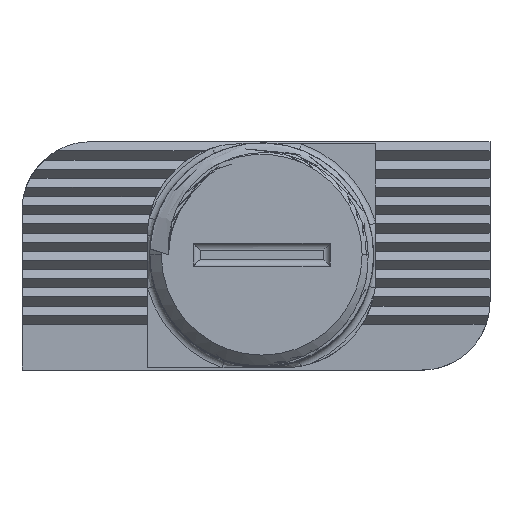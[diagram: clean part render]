
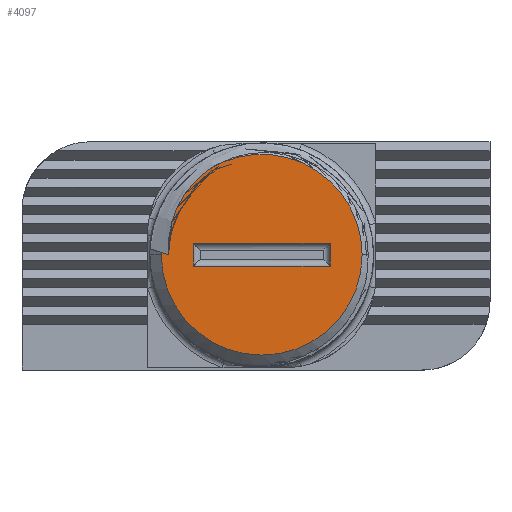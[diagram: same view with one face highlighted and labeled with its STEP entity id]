
A CAD part, top view. The second image highlights one B-rep face of the part: STEP entity #4097.
In plain terms, the highlighted planar face has unit normal (0, 0, 1).
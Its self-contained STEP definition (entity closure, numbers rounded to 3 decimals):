
#81 = CARTESIAN_POINT ( 'NONE',  ( -3.388, 3.343, 34.5 ) ) ;
#92 = CARTESIAN_POINT ( 'NONE',  ( -4., -0.853, 34.5 ) ) ;
#400 = VERTEX_POINT ( 'NONE', #3483 ) ;
#428 = DIRECTION ( 'NONE',  ( 0., 0., 1. ) ) ;
#483 = DIRECTION ( 'NONE',  ( -0.953, 0.301, 0. ) ) ;
#503 = VERTEX_POINT ( 'NONE', #2498 ) ;
#549 = VERTEX_POINT ( 'NONE', #1056 ) ;
#557 = CARTESIAN_POINT ( 'NONE',  ( -4., -0.853, 34.5 ) ) ;
#592 = CARTESIAN_POINT ( 'NONE',  ( -5.088, 0.355, 34.5 ) ) ;
#624 = AXIS2_PLACEMENT_3D ( 'NONE', #6035, #2811, #6567 ) ;
#806 = ORIENTED_EDGE ( 'NONE', *, *, #2337, .T. ) ;
#1009 = EDGE_CURVE ( 'NONE', #1193, #3682, #3129, .T. ) ;
#1056 = CARTESIAN_POINT ( 'NONE',  ( 2., -0.853, 34.5 ) ) ;
#1097 = CARTESIAN_POINT ( 'NONE',  ( -5.106, 0.003, 34.5 ) ) ;
#1119 = CARTESIAN_POINT ( 'NONE',  ( -4.951, 1.052, 34.5 ) ) ;
#1186 = VECTOR ( 'NONE', #6939, 1000. ) ;
#1193 = VERTEX_POINT ( 'NONE', #1791 ) ;
#1315 = EDGE_LOOP ( 'NONE', ( #806, #4676, #5809, #3533, #4298 ) ) ;
#1443 = CARTESIAN_POINT ( 'NONE',  ( 2., 0.147, 34.5 ) ) ;
#1616 = VECTOR ( 'NONE', #483, 1000. ) ;
#1627 = B_SPLINE_CURVE_WITH_KNOTS ( 'NONE', 3,
 ( #4900, #1097, #592, #4372, #1119, #4920, #1678, #5454, #2223, #5997, #2772, #6531, #3321, #81 ),
 .UNSPECIFIED., .F., .F.,
 ( 4, 2, 2, 2, 2, 2, 4 ),
 ( 0., 0.001, 0.002, 0.002, 0.003, 0.004, 0.004 ),
 .UNSPECIFIED. ) ;
#1639 = DIRECTION ( 'NONE',  ( 1., 0., 0. ) ) ;
#1655 = ORIENTED_EDGE ( 'NONE', *, *, #2837, .F. ) ;
#1678 = CARTESIAN_POINT ( 'NONE',  ( -4.781, 1.552, 34.5 ) ) ;
#1704 = LINE ( 'NONE', #2459, #5844 ) ;
#1729 = DIRECTION ( 'NONE',  ( 0., 0., 1. ) ) ;
#1791 = CARTESIAN_POINT ( 'NONE',  ( 3.4, -0.353, 34.5 ) ) ;
#1795 = FACE_BOUND ( 'NONE', #3082, .T. ) ;
#2213 = DIRECTION ( 'NONE',  ( 0., 0., 1. ) ) ;
#2223 = CARTESIAN_POINT ( 'NONE',  ( -4.371, 2.337, 34.5 ) ) ;
#2233 = ORIENTED_EDGE ( 'NONE', *, *, #3820, .F. ) ;
#2234 = VERTEX_POINT ( 'NONE', #3640 ) ;
#2337 = EDGE_CURVE ( 'NONE', #2486, #503, #5922, .T. ) ;
#2459 = CARTESIAN_POINT ( 'NONE',  ( -4., 0.147, 34.5 ) ) ;
#2471 = VECTOR ( 'NONE', #1639, 1000. ) ;
#2486 = VERTEX_POINT ( 'NONE', #4320 ) ;
#2496 = AXIS2_PLACEMENT_3D ( 'NONE', #5444, #2213, #5986 ) ;
#2498 = CARTESIAN_POINT ( 'NONE',  ( -5.399, -0.252, 34.5 ) ) ;
#2546 = LINE ( 'NONE', #1443, #4909 ) ;
#2688 = EDGE_CURVE ( 'NONE', #400, #1193, #4580, .T. ) ;
#2772 = CARTESIAN_POINT ( 'NONE',  ( -3.919, 2.875, 34.5 ) ) ;
#2811 = DIRECTION ( 'NONE',  ( 0., 0., 1. ) ) ;
#2837 = EDGE_CURVE ( 'NONE', #2949, #549, #4240, .T. ) ;
#2949 = VERTEX_POINT ( 'NONE', #92 ) ;
#3014 = DIRECTION ( 'NONE',  ( 0., -1., 0. ) ) ;
#3082 = EDGE_LOOP ( 'NONE', ( #3800, #2233, #4419, #1655 ) ) ;
#3129 = CIRCLE ( 'NONE', #2496, 4.4 ) ;
#3167 = CARTESIAN_POINT ( 'NONE',  ( -1.371, -1.526, 34.5 ) ) ;
#3321 = CARTESIAN_POINT ( 'NONE',  ( -3.529, 3.236, 34.5 ) ) ;
#3338 = EDGE_CURVE ( 'NONE', #549, #2234, #2546, .T. ) ;
#3422 = VERTEX_POINT ( 'NONE', #4737 ) ;
#3424 = CARTESIAN_POINT ( 'NONE',  ( -3.388, 3.343, 34.5 ) ) ;
#3483 = CARTESIAN_POINT ( 'NONE',  ( -5.4, -0.353, 34.5 ) ) ;
#3533 = ORIENTED_EDGE ( 'NONE', *, *, #1009, .T. ) ;
#3640 = CARTESIAN_POINT ( 'NONE',  ( 2., 0.147, 34.5 ) ) ;
#3668 = CARTESIAN_POINT ( 'NONE',  ( -1., -0.353, 34.5 ) ) ;
#3682 = VERTEX_POINT ( 'NONE', #3424 ) ;
#3735 = CARTESIAN_POINT ( 'NONE',  ( -4., 0.147, 34.5 ) ) ;
#3800 = ORIENTED_EDGE ( 'NONE', *, *, #4595, .F. ) ;
#3820 = EDGE_CURVE ( 'NONE', #2234, #3422, #6770, .T. ) ;
#3877 = PLANE ( 'NONE',  #624 ) ;
#4097 = ADVANCED_FACE ( 'NONE', ( #1795, #5926 ), #3877, .T. ) ;
#4154 = DIRECTION ( 'NONE',  ( 0., 1., 0. ) ) ;
#4201 = DIRECTION ( 'NONE',  ( 1., 0., 0. ) ) ;
#4240 = LINE ( 'NONE', #557, #2471 ) ;
#4298 = ORIENTED_EDGE ( 'NONE', *, *, #5107, .F. ) ;
#4320 = CARTESIAN_POINT ( 'NONE',  ( -5.08, -0.353, 34.5 ) ) ;
#4333 = AXIS2_PLACEMENT_3D ( 'NONE', #3668, #428, #4201 ) ;
#4372 = CARTESIAN_POINT ( 'NONE',  ( -4.994, 0.878, 34.5 ) ) ;
#4419 = ORIENTED_EDGE ( 'NONE', *, *, #3338, .F. ) ;
#4580 = CIRCLE ( 'NONE', #4333, 4.4 ) ;
#4595 = EDGE_CURVE ( 'NONE', #3422, #2949, #1704, .T. ) ;
#4676 = ORIENTED_EDGE ( 'NONE', *, *, #5937, .T. ) ;
#4737 = CARTESIAN_POINT ( 'NONE',  ( -4., 0.147, 34.5 ) ) ;
#4900 = CARTESIAN_POINT ( 'NONE',  ( -5.08, -0.353, 34.5 ) ) ;
#4909 = VECTOR ( 'NONE', #4154, 1000. ) ;
#4920 = CARTESIAN_POINT ( 'NONE',  ( -4.845, 1.388, 34.5 ) ) ;
#4970 = CARTESIAN_POINT ( 'NONE',  ( -1., -0.353, 34.5 ) ) ;
#5107 = EDGE_CURVE ( 'NONE', #2486, #3682, #1627, .T. ) ;
#5444 = CARTESIAN_POINT ( 'NONE',  ( -1., -0.353, 34.5 ) ) ;
#5454 = CARTESIAN_POINT ( 'NONE',  ( -4.561, 2.031, 34.5 ) ) ;
#5509 = DIRECTION ( 'NONE',  ( 1., 0., 0. ) ) ;
#5809 = ORIENTED_EDGE ( 'NONE', *, *, #2688, .T. ) ;
#5844 = VECTOR ( 'NONE', #3014, 1000. ) ;
#5922 = LINE ( 'NONE', #3167, #1616 ) ;
#5926 = FACE_OUTER_BOUND ( 'NONE', #1315, .T. ) ;
#5937 = EDGE_CURVE ( 'NONE', #503, #400, #6807, .T. ) ;
#5986 = DIRECTION ( 'NONE',  ( 1., 0., 0. ) ) ;
#5997 = CARTESIAN_POINT ( 'NONE',  ( -4.038, 2.746, 34.5 ) ) ;
#6035 = CARTESIAN_POINT ( 'NONE',  ( -1., -0.353, 34.5 ) ) ;
#6531 = CARTESIAN_POINT ( 'NONE',  ( -3.665, 3.12, 34.5 ) ) ;
#6567 = DIRECTION ( 'NONE',  ( 1., 0., 0. ) ) ;
#6770 = LINE ( 'NONE', #3735, #1186 ) ;
#6807 = CIRCLE ( 'NONE', #6988, 4.4 ) ;
#6939 = DIRECTION ( 'NONE',  ( -1., 0., 0. ) ) ;
#6988 = AXIS2_PLACEMENT_3D ( 'NONE', #4970, #1729, #5509 ) ;
